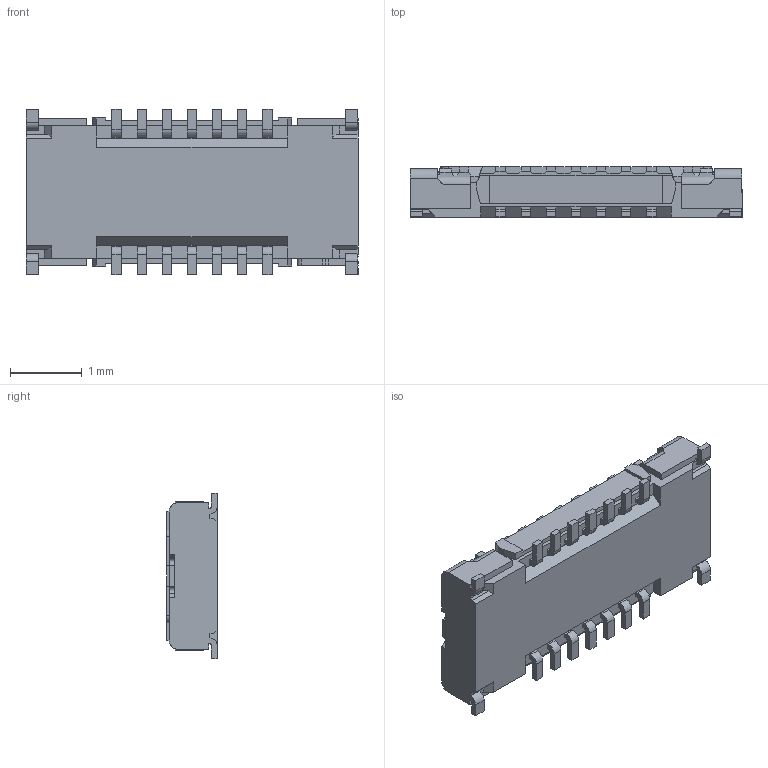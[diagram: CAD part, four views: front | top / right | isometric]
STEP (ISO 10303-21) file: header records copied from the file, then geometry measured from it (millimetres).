
FILE_DESCRIPTION (( 'STEP AP203' ), '1' );
FILE_NAME ('20708-014E-01+20709-014E-01C MATING STEP R1R2 ALL.STEP', '2025-02-28T09:04:46', ( '' ), ( '' ), 'SwSTEP 2.0', 'SolidWorks 2023', '' );
FILE_SCHEMA (( 'CONFIG_CONTROL_DESIGN' ));
Length unit declared in the file: millimetre
Products named in the file (1): 20708-014E-01+20709-014E-01C MATING STEP R1R2 ALL
Bounding box: 4.62 x 0.7 x 2.3 mm (x, y, z)
Volume: 5.7 mm3; surface area: 36.3 mm2
Topology: 1 solids, 1 shells, 576 faces, 1625 edges, 1066 vertices
Faces by surface type: plane 502, cylinder 74
Entity records: 18422 total; most frequent: CARTESIAN_POINT 3388, ORIENTED_EDGE 3250, DIRECTION 2899, EDGE_CURVE 1625, LINE 1449, VECTOR 1449, VERTEX_POINT 1066, AXIS2_PLACEMENT_3D 725
